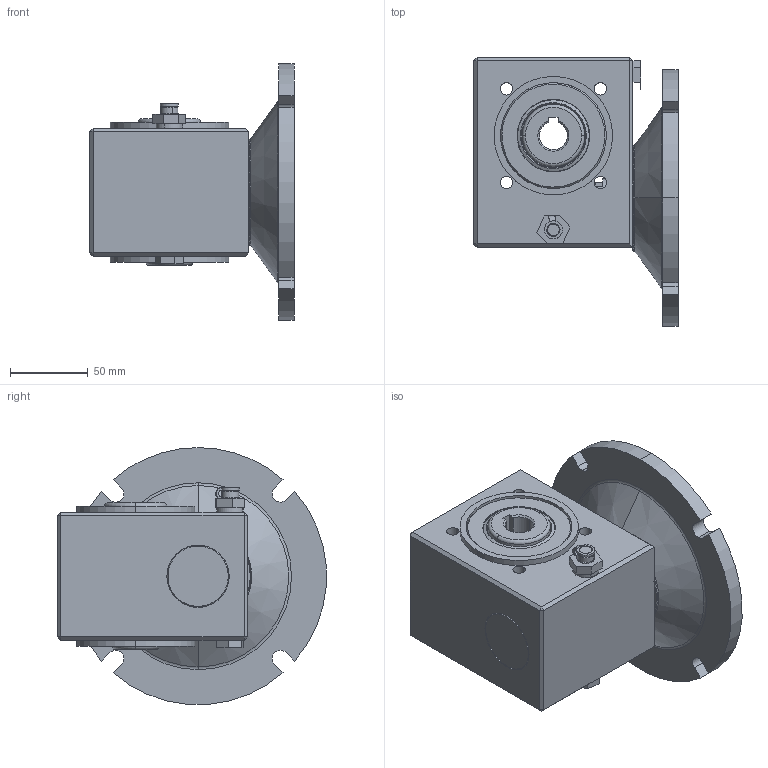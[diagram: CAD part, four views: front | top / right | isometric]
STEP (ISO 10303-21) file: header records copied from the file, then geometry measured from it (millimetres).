
FILE_DESCRIPTION (( 'STEP AP203' ), '1' );
FILE_NAME ('JRESSD40-50-56C.STEP', '2019-04-18T05:17:36', ( 'Sky123.Org' ), ( 'Sky123.Org' ), 'SwSTEP 2.0', 'SolidWorks 2011', '' );
FILE_SCHEMA (( 'CONFIG_CONTROL_DESIGN' ));
Length unit declared in the file: millimetre
Products named in the file (1): JRESSD40-50-56C
Bounding box: 131 x 172.23 x 164.73 mm (x, y, z)
Surface area: 139108.9 mm2 (no closed solid volume)
Topology: 0 solids, 23 shells, 329 faces, 918 edges, 594 vertices
Faces by surface type: plane 140, cylinder 100, cone 51, torus 38
Entity records: 10622 total; most frequent: DIRECTION 2007, CARTESIAN_POINT 1868, ORIENTED_EDGE 1550, EDGE_CURVE 906, AXIS2_PLACEMENT_3D 777, VERTEX_POINT 594, VECTOR 453, LINE 453
